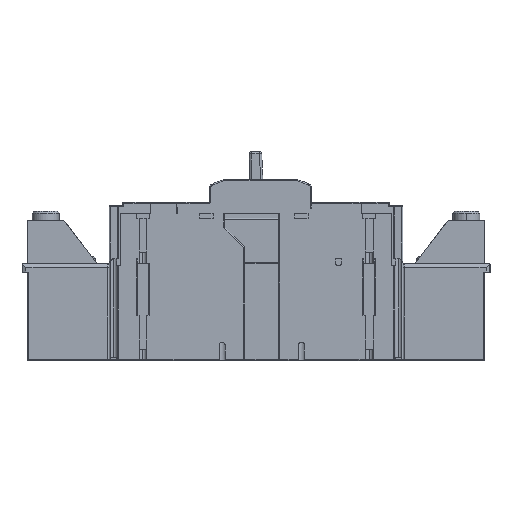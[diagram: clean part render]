
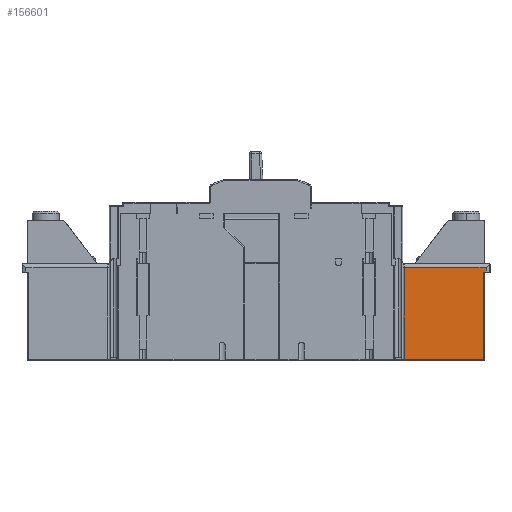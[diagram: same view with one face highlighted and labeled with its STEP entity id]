
A CAD part, left-side view. The second image highlights one B-rep face of the part: STEP entity #156601.
In plain terms, the highlighted planar face has unit normal (-1, 0, 0).
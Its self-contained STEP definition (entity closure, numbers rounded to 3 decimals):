
#19813 = ORIENTED_EDGE ( 'NONE', *, *, #213681, .T. ) ;
#19816 = ORIENTED_EDGE ( 'NONE', *, *, #213680, .T. ) ;
#19818 = ORIENTED_EDGE ( 'NONE', *, *, #213685, .T. ) ;
#19821 = ORIENTED_EDGE ( 'NONE', *, *, #185687, .F. ) ;
#19824 = ORIENTED_EDGE ( 'NONE', *, *, #213669, .T. ) ;
#19827 = ORIENTED_EDGE ( 'NONE', *, *, #88065, .T. ) ;
#26608 = VERTEX_POINT ( 'NONE', #171593 ) ;
#28537 = VERTEX_POINT ( 'NONE', #172720 ) ;
#28642 = VERTEX_POINT ( 'NONE', #172848 ) ;
#28757 = VERTEX_POINT ( 'NONE', #173000 ) ;
#29792 = VERTEX_POINT ( 'NONE', #173975 ) ;
#69975 = EDGE_LOOP ( 'NONE', ( #19813, #19816, #19818, #19821, #19824, #19827 ) ) ;
#72201 = CARTESIAN_POINT ( 'NONE',  ( -56.56, -110.043, -8.191 ) ) ;
#72203 = LINE ( 'NONE', #72201, #114026 ) ;
#72217 = DIRECTION ( 'NONE',  ( 0., 0., 1. ) ) ;
#72284 = LINE ( 'NONE', #72286, #114052 ) ;
#72286 = CARTESIAN_POINT ( 'NONE',  ( -56.56, -110.543, 11.977 ) ) ;
#72287 = DIRECTION ( 'NONE',  ( 0., 1., 0. ) ) ;
#72289 = LINE ( 'NONE', #72290, #114054 ) ;
#72290 = CARTESIAN_POINT ( 'NONE',  ( -56.56, -111.311, -8.191 ) ) ;
#72292 = DIRECTION ( 'NONE',  ( 0., 0., 1. ) ) ;
#72308 = LINE ( 'NONE', #72311, #114066 ) ;
#72311 = CARTESIAN_POINT ( 'NONE',  ( -56.56, -75.043, -8.191 ) ) ;
#72313 = DIRECTION ( 'NONE',  ( 0., 0., -1. ) ) ;
#74657 = FACE_OUTER_BOUND ( 'NONE', #69975, .T. ) ;
#74660 = PLANE ( 'NONE',  #85980 ) ;
#74696 = CARTESIAN_POINT ( 'NONE',  ( -56.56, -110.543, -8.191 ) ) ;
#74699 = DIRECTION ( 'NONE',  ( -1., 0., 0. ) ) ;
#74702 = DIRECTION ( 'NONE',  ( 0., 0., 1. ) ) ;
#85980 = AXIS2_PLACEMENT_3D ( 'NONE', #74696, #74699, #74702 ) ;
#88065 = EDGE_CURVE ( 'NONE', #166951, #29792, #129503, .T. ) ;
#114026 = VECTOR ( 'NONE', #72217, 1000. ) ;
#114052 = VECTOR ( 'NONE', #72287, 1000. ) ;
#114054 = VECTOR ( 'NONE', #72292, 1000. ) ;
#114066 = VECTOR ( 'NONE', #72313, 1000. ) ;
#121470 = VECTOR ( 'NONE', #129513, 1000. ) ;
#124869 = CARTESIAN_POINT ( 'NONE',  ( -56.56, -110.043, 9.909 ) ) ;
#127623 = VECTOR ( 'NONE', #135097, 1000. ) ;
#129497 = CARTESIAN_POINT ( 'NONE',  ( -56.56, -110.543, 9.909 ) ) ;
#129503 = LINE ( 'NONE', #129497, #121470 ) ;
#129513 = DIRECTION ( 'NONE',  ( 0., -1., 0. ) ) ;
#135069 = LINE ( 'NONE', #135091, #127623 ) ;
#135091 = CARTESIAN_POINT ( 'NONE',  ( -56.56, -110.543, -28.691 ) ) ;
#135097 = DIRECTION ( 'NONE',  ( 0., 1., 0. ) ) ;
#156601 = ADVANCED_FACE ( 'NONE', ( #74657 ), #74660, .T. ) ;
#166951 = VERTEX_POINT ( 'NONE', #124869 ) ;
#171593 = CARTESIAN_POINT ( 'NONE',  ( -56.56, -75.043, 11.977 ) ) ;
#172720 = CARTESIAN_POINT ( 'NONE',  ( -56.56, -111.311, 11.977 ) ) ;
#172848 = CARTESIAN_POINT ( 'NONE',  ( -56.56, -110.043, -28.691 ) ) ;
#173000 = CARTESIAN_POINT ( 'NONE',  ( -56.56, -75.043, -28.691 ) ) ;
#173975 = CARTESIAN_POINT ( 'NONE',  ( -56.56, -111.311, 9.909 ) ) ;
#185687 = EDGE_CURVE ( 'NONE', #28642, #28757, #135069, .T. ) ;
#213669 = EDGE_CURVE ( 'NONE', #28642, #166951, #72203, .T. ) ;
#213680 = EDGE_CURVE ( 'NONE', #28537, #26608, #72284, .T. ) ;
#213681 = EDGE_CURVE ( 'NONE', #29792, #28537, #72289, .T. ) ;
#213685 = EDGE_CURVE ( 'NONE', #26608, #28757, #72308, .T. ) ;
